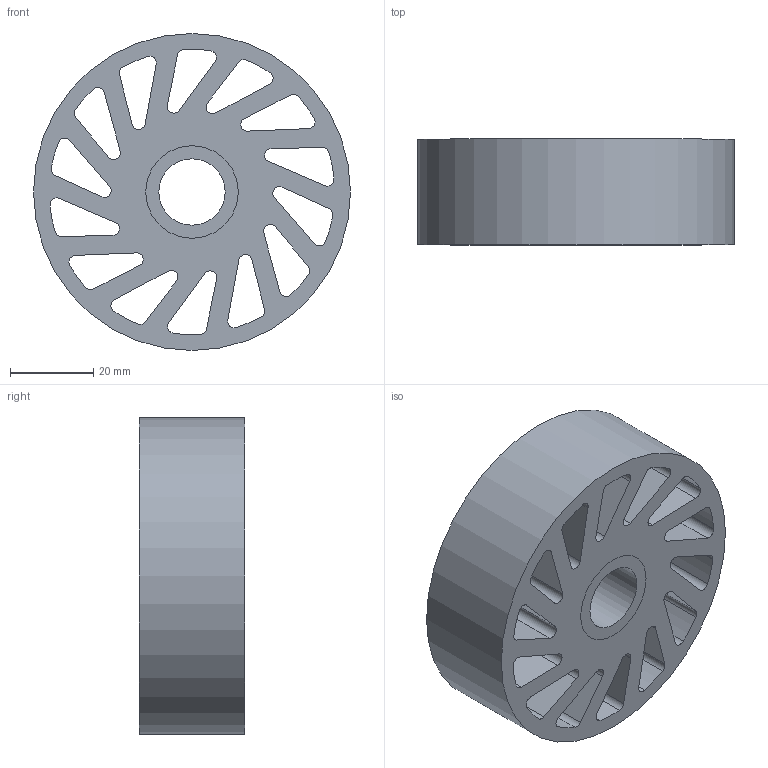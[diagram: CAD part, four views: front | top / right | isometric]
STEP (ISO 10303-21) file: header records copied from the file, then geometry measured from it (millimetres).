
FILE_DESCRIPTION(/* description */ (''),/* implementation_level */ '2;1');
FILE_NAME(/* name */ 'C:\Users\Owner\Desktop\Meridian Stuff\Oilite\NCWOB-670-XXX.stp',/* time_stamp */ '2023-05-22T16:42:35-05:00',/* author */ ('ASG'),/* organization */ ('Meridian Laboratory '),/* preprocessor_version */ 'ST-DEVELOPER v19',/* originating_system */ 'Autodesk Inventor 2023',/* authorisation */ '');
FILE_SCHEMA (('AUTOMOTIVE_DESIGN { 1 0 10303 214 3 1 1 }'));
Length unit declared in the file: inch
Products named in the file (1): NCWOB-640-XXX
Bounding box: 76.2 x 25.4 x 76.2 mm (x, y, z)
Volume: 75438.1 mm3; surface area: 32213.9 mm2
Topology: 2 solids, 2 shells, 92 faces, 264 edges, 176 vertices
Faces by surface type: cylinder 60, plane 32
Full cylindrical faces by diameter (mm): 15.926 x1, 22.225 x2, 76.2 x1
Entity records: 3285 total; most frequent: DIRECTION 570, CARTESIAN_POINT 533, ORIENTED_EDGE 528, EDGE_CURVE 264, AXIS2_PLACEMENT_3D 213, VERTEX_POINT 176, LINE 144, VECTOR 144
